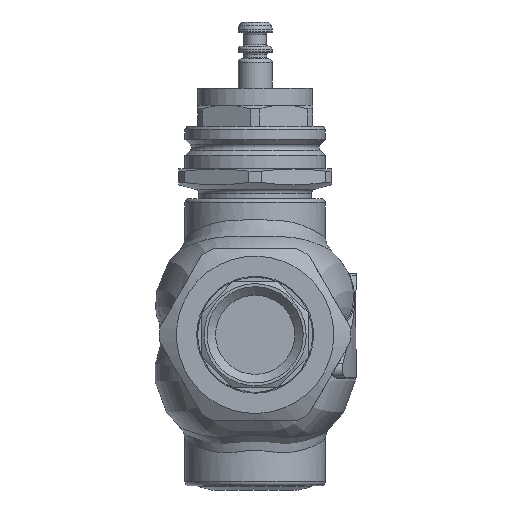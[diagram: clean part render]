
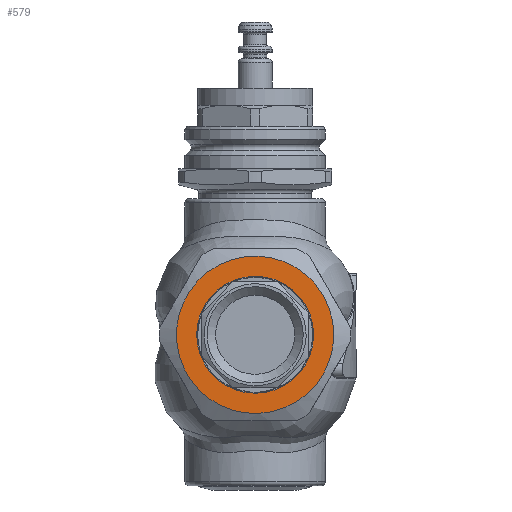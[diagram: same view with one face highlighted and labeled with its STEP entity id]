
A CAD part, left-side view. The second image highlights one B-rep face of the part: STEP entity #579.
In plain terms, the highlighted planar face has unit normal (-1, 0, 0).
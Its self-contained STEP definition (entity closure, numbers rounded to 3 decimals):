
#284=PLANE('',#3230);
#377=FACE_BOUND('',#971,.T.);
#378=FACE_BOUND('',#972,.T.);
#579=ADVANCED_FACE('',(#377,#378),#284,.T.);
#971=EDGE_LOOP('',(#1492));
#972=EDGE_LOOP('',(#1493));
#1291=CIRCLE('',#3228,13.75);
#1292=CIRCLE('',#3229,18.5);
#1492=ORIENTED_EDGE('',*,*,#2606,.T.);
#1493=ORIENTED_EDGE('',*,*,#2607,.T.);
#2310=VERTEX_POINT('',#4530);
#2311=VERTEX_POINT('',#4532);
#2606=EDGE_CURVE('',#2310,#2310,#1291,.T.);
#2607=EDGE_CURVE('',#2311,#2311,#1292,.T.);
#3228=AXIS2_PLACEMENT_3D('',#4529,#3644,#3645);
#3229=AXIS2_PLACEMENT_3D('',#4531,#3646,#3647);
#3230=AXIS2_PLACEMENT_3D('',#4533,#3648,#3649);
#3644=DIRECTION('',(1.,0.,0.));
#3645=DIRECTION('',(0.,1.,0.));
#3646=DIRECTION('',(-1.,0.,0.));
#3647=DIRECTION('',(0.,-1.,0.));
#3648=DIRECTION('',(-1.,0.,0.));
#3649=DIRECTION('',(0.,-1.,0.));
#4529=CARTESIAN_POINT('',(40.,0.,100.));
#4530=CARTESIAN_POINT('',(40.,13.75,100.));
#4531=CARTESIAN_POINT('',(40.,0.,100.));
#4532=CARTESIAN_POINT('',(40.,-18.5,100.));
#4533=CARTESIAN_POINT('',(40.,0.,100.));
